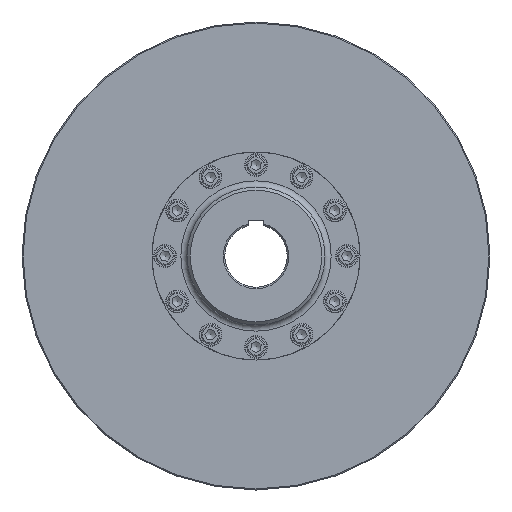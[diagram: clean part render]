
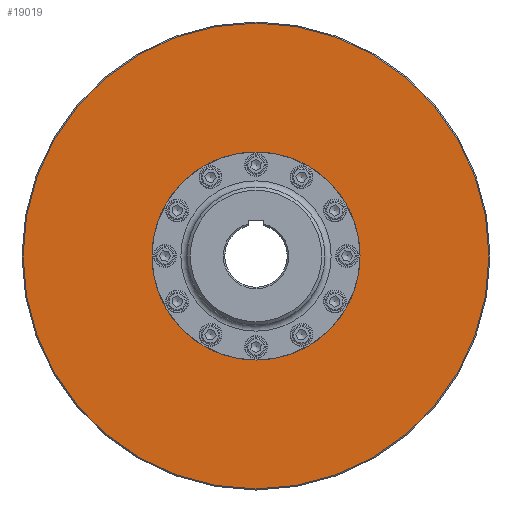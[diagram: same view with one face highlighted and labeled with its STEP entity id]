
A CAD part, left-side view. The second image highlights one B-rep face of the part: STEP entity #19019.
In plain terms, the highlighted planar face has unit normal (-1, 0, 0).
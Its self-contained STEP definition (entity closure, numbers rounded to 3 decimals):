
#3035=FACE_BOUND('',#4898,.T.);
#3527=FACE_OUTER_BOUND('',#4897,.T.);
#4897=EDGE_LOOP('',(#12280));
#4898=EDGE_LOOP('',(#12281));
#6591=CIRCLE('',#20419,448.);
#6592=CIRCLE('',#20420,194.5);
#7948=VERTEX_POINT('',#29355);
#7949=VERTEX_POINT('',#29357);
#9663=EDGE_CURVE('',#7948,#7948,#6591,.T.);
#9664=EDGE_CURVE('',#7949,#7949,#6592,.T.);
#12280=ORIENTED_EDGE('',*,*,#9663,.F.);
#12281=ORIENTED_EDGE('',*,*,#9664,.T.);
#17214=PLANE('',#20418);
#19019=ADVANCED_FACE('',(#3527,#3035),#17214,.F.);
#20418=AXIS2_PLACEMENT_3D('',#29354,#23231,#23232);
#20419=AXIS2_PLACEMENT_3D('',#29356,#23233,#23234);
#20420=AXIS2_PLACEMENT_3D('',#29358,#23235,#23236);
#23231=DIRECTION('center_axis',(1.,0.,0.));
#23232=DIRECTION('ref_axis',(0.,1.,0.));
#23233=DIRECTION('center_axis',(1.,0.,0.));
#23234=DIRECTION('ref_axis',(0.,-1.,0.));
#23235=DIRECTION('center_axis',(1.,0.,0.));
#23236=DIRECTION('ref_axis',(0.,0.259,0.966));
#29354=CARTESIAN_POINT('Origin',(-123.75,640.121,0.));
#29355=CARTESIAN_POINT('',(-123.75,448.,0.));
#29356=CARTESIAN_POINT('Origin',(-123.75,0.,0.));
#29357=CARTESIAN_POINT('',(-123.75,-50.34,-187.873));
#29358=CARTESIAN_POINT('Origin',(-123.75,0.,0.));
